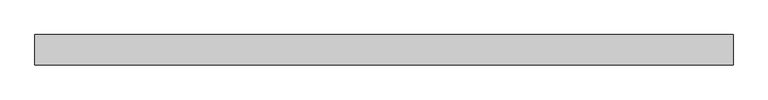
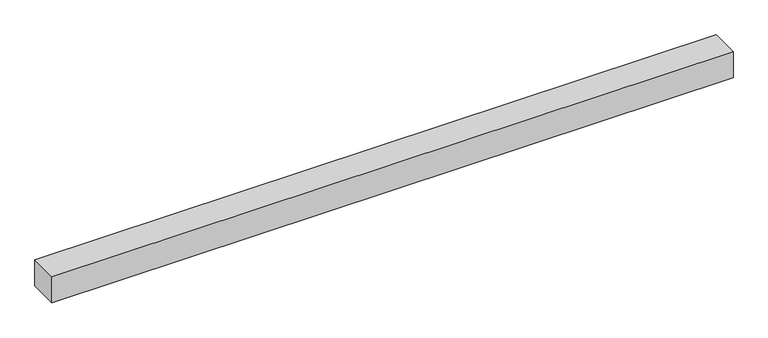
"""IFC4 building model written with IfcOpenShell, lengths in millimetres: light fixture geometry, GENILED_Светильник светодиодный_Trade Linear Advanced : Trade Linear Advanced 1500x65x60 30Вт IP54 Черный 4000К."""

from ifc_helpers import new_model, si_unit, frame, origin, place, context, project, spatial, polyline, outline, extrude, source, transform, mapped, element, save


def light_fixture_5221eba1(model_context):
    return source(origin(), model_context, "Body", "SweptSolid", [
        extrude(outline(polyline([(750.0, 32.5), (750.0, -32.5), (-750.0, -32.5), (-750.0, 32.5), (750.0, 32.5)])), frame((0.0, 0.0, -60.0), z_axis=(0.0, 0.0, 1.0), x_axis=(1.0, 0.0, 0.0)), (0.0, 0.0, 1.0), 60.0),
    ])


if __name__ == "__main__":
    model = new_model("IFC4")
    model_context = context("Model", 3, world=origin())
    ifc_project = project(units=[si_unit("LENGTHUNIT", "METRE", prefix="MILLI")], contexts=[model_context])
    site = spatial("IfcSite", under=ifc_project)
    building = spatial("IfcBuilding", under=site)
    placement = place(None, origin())
    light_fixture_shape = light_fixture_5221eba1(model_context)
    element("IfcLightFixture", 1, ObjectType="GENILED_Светильник светодиодный_Trade Linear Advanced : Trade Linear Advanced 1500x65x60 30Вт IP54 Черный 4000К", at=placement, inside=building, context=model_context, shape_type="MappedRepresentation", body=[
        mapped(light_fixture_shape, transform((0.0, 0.0, 0.0), x_axis=(1.0, 0.0, 0.0), y_axis=(0.0, 1.0, 0.0), z_axis=(0.0, 0.0, 1.0))),
    ])
    save(model, "model.ifc")
